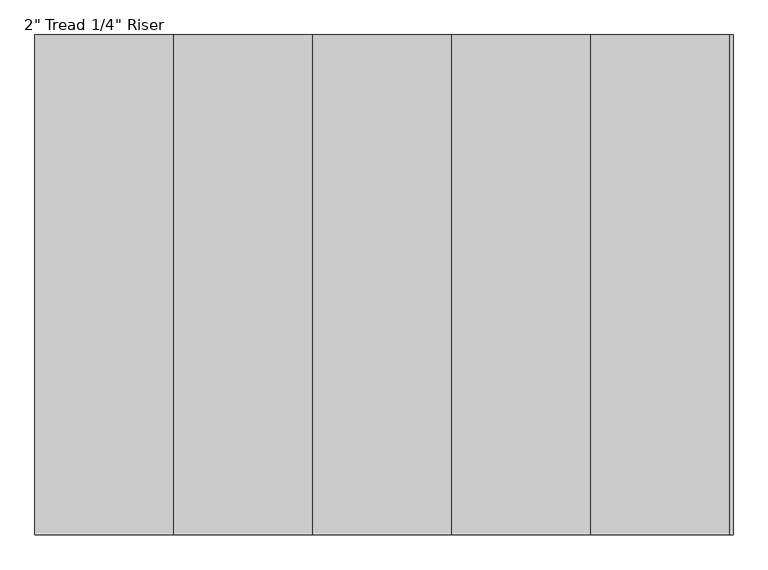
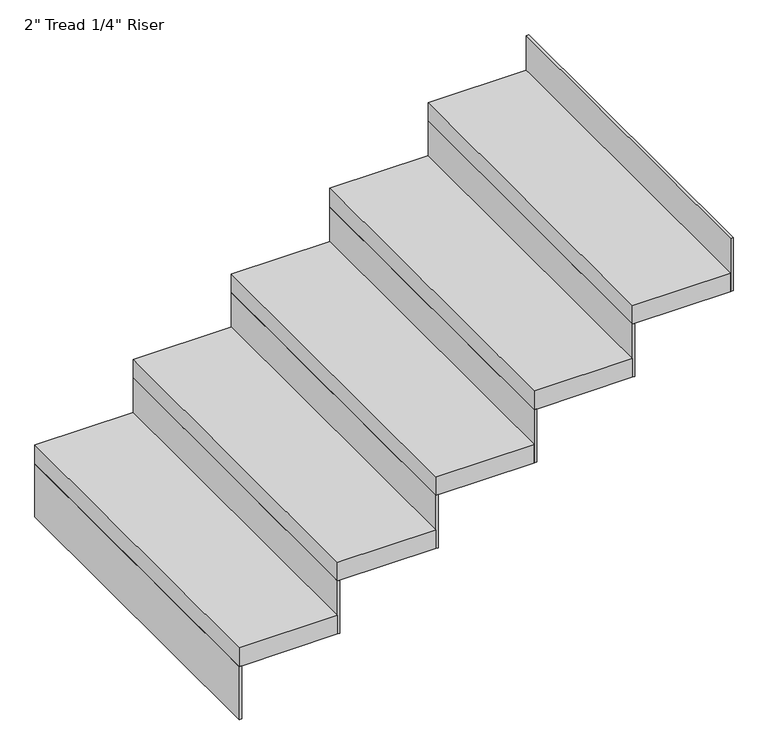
"""IFC4 building model written with IfcOpenShell, lengths in millimetres: stair flight geometry."""

from ifc_helpers import new_model, si_unit, frame, origin, place, context, project, spatial, polyline, outline, extrude, source, transform, mapped, element, save


def stair_flight_edcfc60d(model_context):
    return source(origin(), model_context, "Body", "SweptSolid", [
        extrude(outline(polyline([(164309.4120703, 15846.0395941), (164303.0620703, 15846.0395941), (164303.0620703, 16760.4395941), (164309.4120703, 16760.4395941), (164309.4120703, 15846.0395941)])), frame((0.0, 0.0, 2126.3428571), z_axis=(0.0, 0.0, 1.0), x_axis=(1.0, 0.0, 0.0)), (0.0, 0.0, 1.0), 145.1428571),
        extrude(outline(polyline([(164557.0620703, 16760.4395941), (164557.0620703, 15846.0395941), (164303.0620703, 15846.0395941), (164303.0620703, 16760.4395941), (164557.0620703, 16760.4395941)])), frame((0.0, 0.0, 2271.4857143), z_axis=(0.0, 0.0, 1.0), x_axis=(1.0, 0.0, 0.0)), (0.0, 0.0, 1.0), 50.8),
        extrude(outline(polyline([(164563.4120703, 15846.0395941), (164557.0620703, 15846.0395941), (164557.0620703, 16760.4395941), (164563.4120703, 16760.4395941), (164563.4120703, 15846.0395941)])), frame((0.0, 0.0, 2271.4857143), z_axis=(0.0, 0.0, 1.0), x_axis=(1.0, 0.0, 0.0)), (0.0, 0.0, 1.0), 145.1428571),
        extrude(outline(polyline([(164811.0620703, 16760.4395941), (164811.0620703, 15846.0395941), (164557.0620703, 15846.0395941), (164557.0620703, 16760.4395941), (164811.0620703, 16760.4395941)])), frame((0.0, 0.0, 2416.6285714), z_axis=(0.0, 0.0, 1.0), x_axis=(1.0, 0.0, 0.0)), (0.0, 0.0, 1.0), 50.8),
        extrude(outline(polyline([(164817.4120703, 15846.0395941), (164811.0620703, 15846.0395941), (164811.0620703, 16760.4395941), (164817.4120703, 16760.4395941), (164817.4120703, 15846.0395941)])), frame((0.0, 0.0, 2416.6285714), z_axis=(0.0, 0.0, 1.0), x_axis=(1.0, 0.0, 0.0)), (0.0, 0.0, 1.0), 145.1428571),
        extrude(outline(polyline([(165065.0620703, 16760.4395941), (165065.0620703, 15846.0395941), (164811.0620703, 15846.0395941), (164811.0620703, 16760.4395941), (165065.0620703, 16760.4395941)])), frame((0.0, 0.0, 2561.7714286), z_axis=(0.0, 0.0, 1.0), x_axis=(1.0, 0.0, 0.0)), (0.0, 0.0, 1.0), 50.8),
        extrude(outline(polyline([(165071.4120703, 15846.0395941), (165065.0620703, 15846.0395941), (165065.0620703, 16760.4395941), (165071.4120703, 16760.4395941), (165071.4120703, 15846.0395941)])), frame((0.0, 0.0, 2561.7714286), z_axis=(0.0, 0.0, 1.0), x_axis=(1.0, 0.0, 0.0)), (0.0, 0.0, 1.0), 145.1428571),
        extrude(outline(polyline([(165319.0620703, 16760.4395941), (165319.0620703, 15846.0395941), (165065.0620703, 15846.0395941), (165065.0620703, 16760.4395941), (165319.0620703, 16760.4395941)])), frame((0.0, 0.0, 2706.9142857), z_axis=(0.0, 0.0, 1.0), x_axis=(1.0, 0.0, 0.0)), (0.0, 0.0, 1.0), 50.8),
        extrude(outline(polyline([(165325.4120703, 15846.0395941), (165319.0620703, 15846.0395941), (165319.0620703, 16760.4395941), (165325.4120703, 16760.4395941), (165325.4120703, 15846.0395941)])), frame((0.0, 0.0, 2706.9142857), z_axis=(0.0, 0.0, 1.0), x_axis=(1.0, 0.0, 0.0)), (0.0, 0.0, 1.0), 145.1428571),
        extrude(outline(polyline([(165579.4120703, 15846.0395941), (165573.0620703, 15846.0395941), (165573.0620703, 16760.4395941), (165579.4120703, 16760.4395941), (165579.4120703, 15846.0395941)])), frame((0.0, 0.0, 2852.0571429), z_axis=(0.0, 0.0, 1.0), x_axis=(1.0, 0.0, 0.0)), (0.0, 0.0, 1.0), 145.1428571),
        extrude(outline(polyline([(165573.0620703, 16760.4395941), (165573.0620703, 15846.0395941), (165319.0620703, 15846.0395941), (165319.0620703, 16760.4395941), (165573.0620703, 16760.4395941)])), frame((0.0, 0.0, 2852.0571429), z_axis=(0.0, 0.0, 1.0), x_axis=(1.0, 0.0, 0.0)), (0.0, 0.0, 1.0), 50.8),
    ])


if __name__ == "__main__":
    model = new_model("IFC4")
    model_context = context("Model", 3, world=origin())
    ifc_project = project(units=[si_unit("LENGTHUNIT", "METRE", prefix="MILLI")], contexts=[model_context])
    site = spatial("IfcSite", under=ifc_project)
    building = spatial("IfcBuilding", under=site)
    placement = place(None, origin())
    stair_flight_shape = stair_flight_edcfc60d(model_context)
    element("IfcStairFlight", 1, ObjectType="2\" Tread 1/4\" Riser", at=placement, inside=building, context=model_context, shape_type="MappedRepresentation", body=[
        mapped(stair_flight_shape, transform((0.0, 0.0, 0.0), x_axis=(1.0, 0.0, 0.0), y_axis=(0.0, 1.0, 0.0), z_axis=(0.0, 0.0, 1.0))),
    ])
    save(model, "model.ifc")
